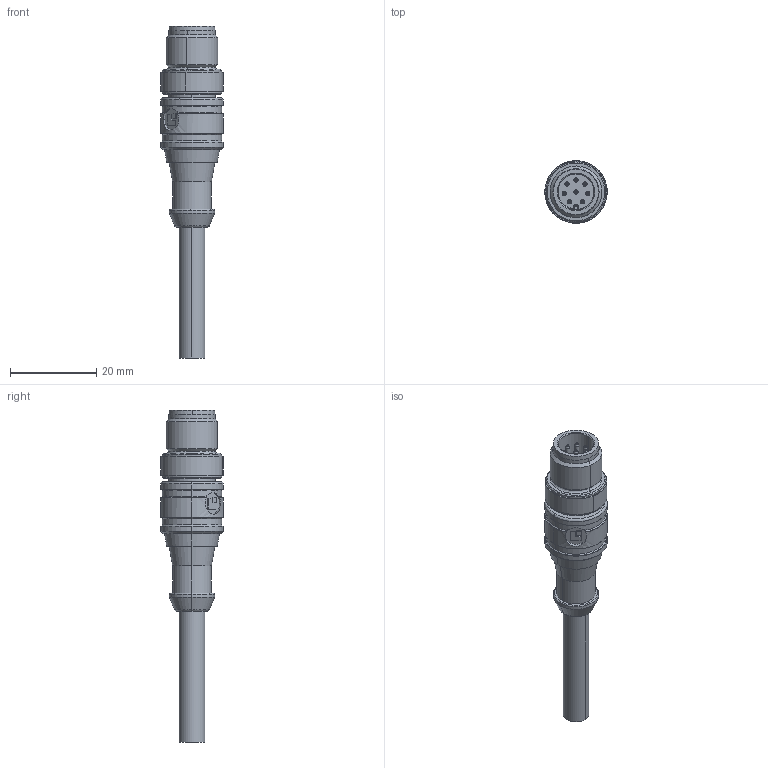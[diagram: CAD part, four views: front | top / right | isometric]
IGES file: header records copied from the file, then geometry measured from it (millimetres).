
Start section: Elysium IGES Interface
Global section: file name: C:\Data\JobServerData\JobServer Files\5ffccf42-f2fc-4fd2-bcc3-c4ffd3859d47\work\output\model.igs; native system: PTC Creo Elements/Direct Modeling 19.0B  21-Mar-2015; preprocessor: Creo Element/Direct IGES_3D V2.2; author: Unknown; organization: Unknown; date: 20180411.100211; units: millimetre
Bounding box: 14.5 x 14.5 x 77 mm (x, y, z)
Volume: 5772.1 mm3; surface area: 3186.6 mm2
Topology: 1 solids, 1 shells, 186 faces, 445 edges, 286 vertices
Faces by surface type: bspline 186
